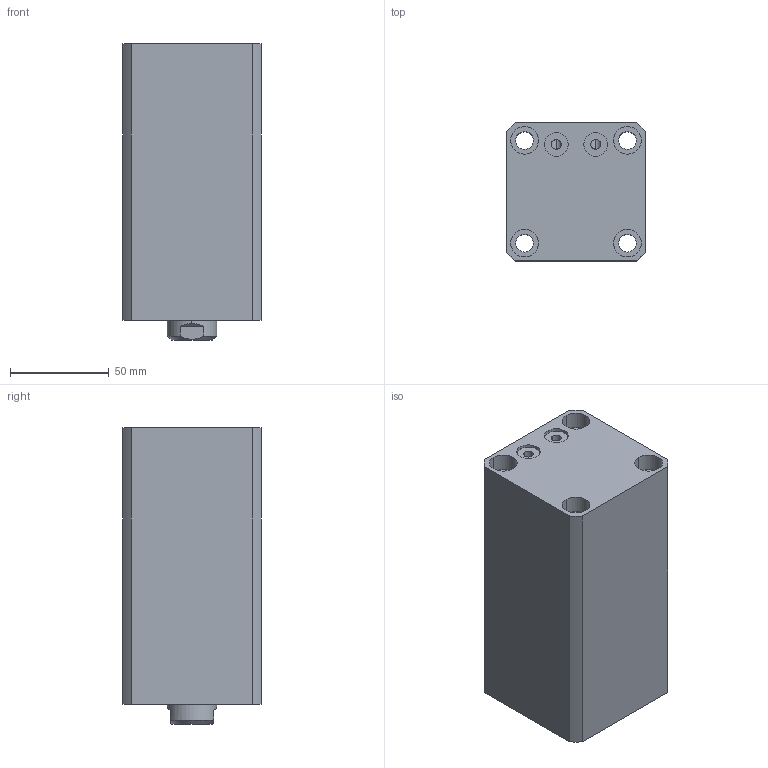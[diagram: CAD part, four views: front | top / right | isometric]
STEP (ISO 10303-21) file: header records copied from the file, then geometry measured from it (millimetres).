
FILE_DESCRIPTION (( 'STEP AP214' ), '1' );
FILE_NAME ('chtb-sdmb40x85n_asm.STEP', '2018-06-07T02:42:30', ( 'Windows' ), ( 'Microsoft' ), 'SwSTEP 2.0', 'SolidWorks 2015', '' );
FILE_SCHEMA (( 'AUTOMOTIVE_DESIGN' ));
Length unit declared in the file: millimetre
Products named in the file (4): CHTB-SDMB40X85NBT; CHTB-SD40X85NHSG; CHTB-SD40QG; chtb-sdmb40x85n_asm
Assembly tree (3 placements, depth 2):
  chtb-sdmb40x85n_asm
    CHTB-SD40QG
    CHTB-SD40X85NHSG
    CHTB-SDMB40X85NBT
Bounding box: 70 x 70 x 150 mm (x, y, z)
Volume: 564751.4 mm3; surface area: 111193.3 mm2
Topology: 3 solids, 3 shells, 155 faces, 407 edges, 270 vertices
Faces by surface type: cylinder 84, plane 34, bspline 14, torus 14, cone 9
Entity records: 10007 total; most frequent: CARTESIAN_POINT 6085, ORIENTED_EDGE 802, DIRECTION 758, EDGE_CURVE 401, AXIS2_PLACEMENT_3D 322, VERTEX_POINT 270, EDGE_LOOP 191, CIRCLE 175
